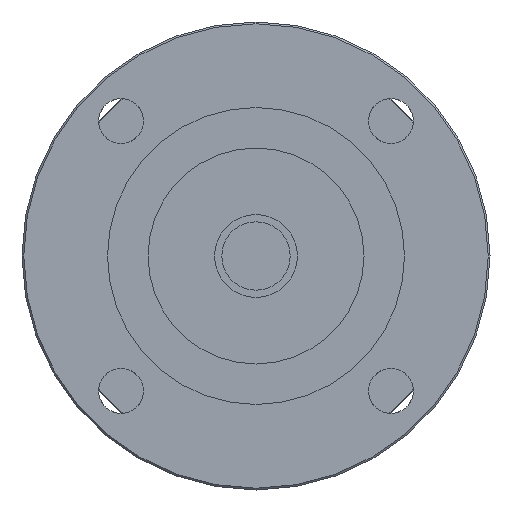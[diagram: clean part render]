
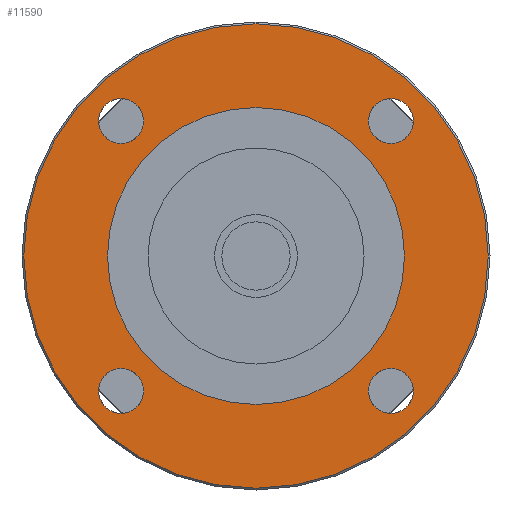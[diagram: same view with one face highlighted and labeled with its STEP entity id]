
A CAD part, left-side view. The second image highlights one B-rep face of the part: STEP entity #11590.
In plain terms, the highlighted planar face has unit normal (-1, 0, 0) as drawn and (0, 0, -1) by its records, which use the part's own axes.
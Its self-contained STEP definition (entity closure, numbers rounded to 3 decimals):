
#10430=CARTESIAN_POINT('',(31.227,-37.477,-60.5));
#10440=VERTEX_POINT('',#10430);
#10470=CARTESIAN_POINT('',(37.477,-37.477,-60.5));
#10480=DIRECTION('',(0.,0.,-1.));
#10490=DIRECTION('',(1.,0.,0.));
#10500=AXIS2_PLACEMENT_3D('',#10470,#10480,#10490);
#10510=CIRCLE('',#10500,6.25);
#10520=CARTESIAN_POINT('',(43.727,-37.477,-60.5));
#10530=VERTEX_POINT('',#10520);
#10540=EDGE_CURVE('',#10530,#10440,#10510,.T.);
#10740=CARTESIAN_POINT('',(0.,0.,
-60.5));
#10750=DIRECTION('',(0.,0.,-1.));
#10760=DIRECTION('',(1.,0.,0.));
#10770=AXIS2_PLACEMENT_3D('',#10740,#10750,#10760);
#10780=PLANE('',#10770);
#10790=CARTESIAN_POINT('',(-37.477,-37.477,-60.5));
#10800=DIRECTION('',(0.,0.,-1.));
#10810=DIRECTION('',(1.,0.,0.));
#10820=AXIS2_PLACEMENT_3D('',#10790,#10800,#10810);
#10830=CIRCLE('',#10820,6.25);
#10840=CARTESIAN_POINT('',(-31.227,-37.477,-60.5));
#10850=VERTEX_POINT('',#10840);
#10860=CARTESIAN_POINT('',(-43.727,-37.477,-60.5));
#10870=VERTEX_POINT('',#10860);
#10880=EDGE_CURVE('',#10850,#10870,#10830,.T.);
#10890=ORIENTED_EDGE('',*,*,#10880,.F.);
#10900=EDGE_CURVE('',#10870,#10850,#10830,.T.);
#10910=ORIENTED_EDGE('',*,*,#10900,.F.);
#10920=EDGE_LOOP('',(#10910,#10890));
#10930=FACE_BOUND('',#10920,.T.);
#10940=CARTESIAN_POINT('',(-37.477,37.477,-60.5));
#10950=DIRECTION('',(0.,0.,-1.));
#10960=DIRECTION('',(1.,0.,0.));
#10970=AXIS2_PLACEMENT_3D('',#10940,#10950,#10960);
#10980=CIRCLE('',#10970,6.25);
#10990=CARTESIAN_POINT('',(-31.227,37.477,-60.5));
#11000=VERTEX_POINT('',#10990);
#11010=CARTESIAN_POINT('',(-43.727,37.477,-60.5));
#11020=VERTEX_POINT('',#11010);
#11030=EDGE_CURVE('',#11000,#11020,#10980,.T.);
#11040=ORIENTED_EDGE('',*,*,#11030,.F.);
#11050=EDGE_CURVE('',#11020,#11000,#10980,.T.);
#11060=ORIENTED_EDGE('',*,*,#11050,.F.);
#11070=EDGE_LOOP('',(#11060,#11040));
#11080=FACE_BOUND('',#11070,.T.);
#11090=CARTESIAN_POINT('',(37.477,37.477,-60.5));
#11100=DIRECTION('',(0.,0.,-1.));
#11110=DIRECTION('',(1.,0.,0.));
#11120=AXIS2_PLACEMENT_3D('',#11090,#11100,#11110);
#11130=CIRCLE('',#11120,6.25);
#11140=CARTESIAN_POINT('',(43.727,37.477,-60.5));
#11150=VERTEX_POINT('',#11140);
#11160=CARTESIAN_POINT('',(31.227,37.477,-60.5));
#11170=VERTEX_POINT('',#11160);
#11180=EDGE_CURVE('',#11150,#11170,#11130,.T.);
#11190=ORIENTED_EDGE('',*,*,#11180,.F.);
#11200=EDGE_CURVE('',#11170,#11150,#11130,.T.);
#11210=ORIENTED_EDGE('',*,*,#11200,.F.);
#11220=EDGE_LOOP('',(#11210,#11190));
#11230=FACE_BOUND('',#11220,.T.);
#11240=ORIENTED_EDGE('',*,*,#10540,.F.);
#11250=EDGE_CURVE('',#10440,#10530,#10510,.T.);
#11260=ORIENTED_EDGE('',*,*,#11250,.F.);
#11270=EDGE_LOOP('',(#11260,#11240));
#11280=FACE_BOUND('',#11270,.T.);
#11290=CARTESIAN_POINT('',(0.,0.,
-60.5));
#11300=DIRECTION('',(0.,0.,-1.));
#11310=DIRECTION('',(1.,0.,0.));
#11320=AXIS2_PLACEMENT_3D('',#11290,#11300,#11310);
#11330=CIRCLE('',#11320,64.5);
#11340=CARTESIAN_POINT('',(64.5,0.,-60.5));
#11350=VERTEX_POINT('',#11340);
#11360=CARTESIAN_POINT('',(-64.5,0.,-60.5));
#11370=VERTEX_POINT('',#11360);
#11380=EDGE_CURVE('',#11350,#11370,#11330,.T.);
#11390=ORIENTED_EDGE('',*,*,#11380,.T.);
#11400=EDGE_CURVE('',#11370,#11350,#11330,.T.);
#11410=ORIENTED_EDGE('',*,*,#11400,.T.);
#11420=EDGE_LOOP('',(#11410,#11390));
#11430=FACE_OUTER_BOUND('',#11420,.T.);
#11440=CARTESIAN_POINT('',(0.,0.,
-60.5));
#11450=DIRECTION('',(0.,0.,1.));
#11460=DIRECTION('',(1.,0.,0.));
#11470=AXIS2_PLACEMENT_3D('',#11440,#11450,#11460);
#11480=CIRCLE('',#11470,41.25);
#11490=CARTESIAN_POINT('',(41.25,0.,-60.5));
#11500=VERTEX_POINT('',#11490);
#11510=CARTESIAN_POINT('',(-41.25,0.,-60.5));
#11520=VERTEX_POINT('',#11510);
#11530=EDGE_CURVE('',#11500,#11520,#11480,.T.);
#11540=ORIENTED_EDGE('',*,*,#11530,.T.);
#11550=EDGE_CURVE('',#11520,#11500,#11480,.T.);
#11560=ORIENTED_EDGE('',*,*,#11550,.T.);
#11570=EDGE_LOOP('',(#11560,#11540));
#11580=FACE_BOUND('',#11570,.T.);
#11590=ADVANCED_FACE('',(#10930,#11080,#11230,#11280,#11430,#11580),
#10780,.T.);
